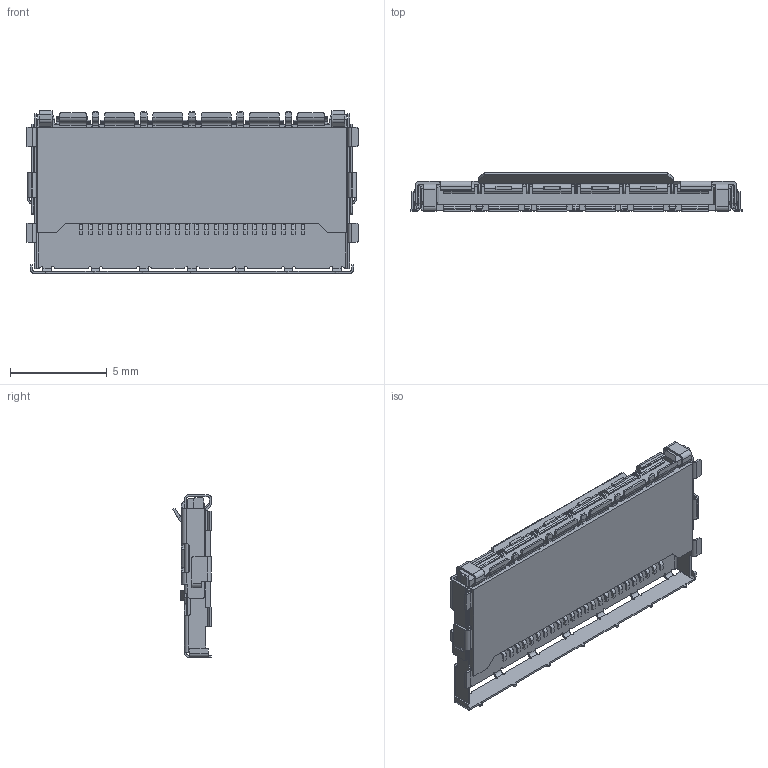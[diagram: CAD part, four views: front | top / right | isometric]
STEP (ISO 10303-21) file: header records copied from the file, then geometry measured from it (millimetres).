
FILE_DESCRIPTION (( 'STEP AP203' ), '1' );
FILE_NAME ('20952-024E-02 ASS''Y STEP R3.STEP', '2020-01-09T01:34:19', ( '' ), ( '' ), 'SwSTEP 2.0', 'SolidWorks 2017', '' );
FILE_SCHEMA (( 'CONFIG_CONTROL_DESIGN' ));
Length unit declared in the file: millimetre
Products named in the file (1): 20952-024E-02 ASS''Y STEP R3
Bounding box: 17.2 x 2 x 8.43 mm (x, y, z)
Volume: 134 mm3; surface area: 499.5 mm2
Topology: 1 solids, 1 shells, 1326 faces, 3881 edges, 2554 vertices
Faces by surface type: plane 812, cylinder 499, cone 15
Entity records: 44088 total; most frequent: CARTESIAN_POINT 7810, ORIENTED_EDGE 7762, DIRECTION 7553, EDGE_CURVE 3881, VECTOR 2831, LINE 2831, VERTEX_POINT 2554, AXIS2_PLACEMENT_3D 2361
